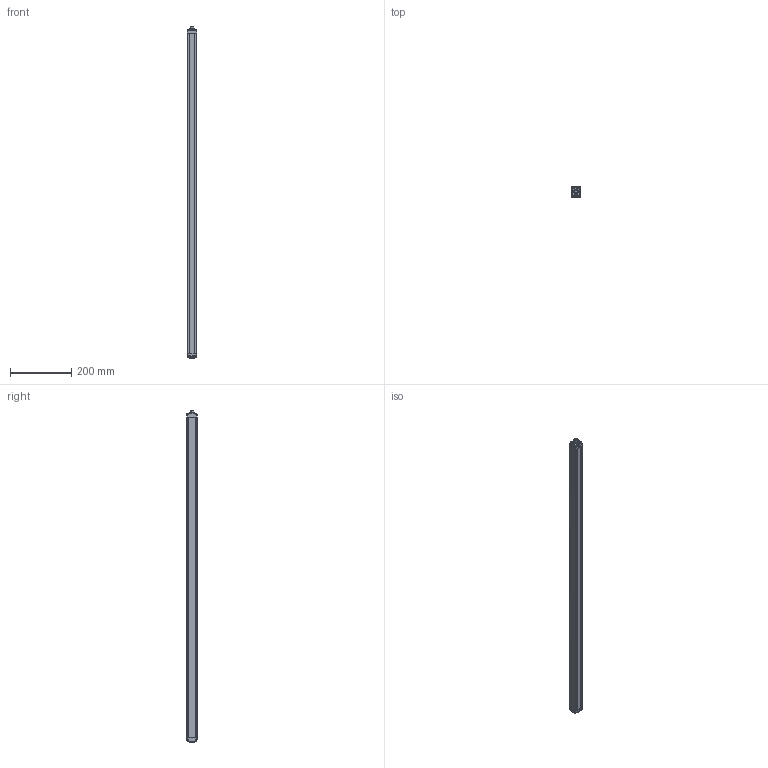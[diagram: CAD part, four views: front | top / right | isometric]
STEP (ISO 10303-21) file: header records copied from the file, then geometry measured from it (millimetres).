
FILE_DESCRIPTION(/* description */ (''),/* implementation_level */ '2;1');
FILE_NAME(/* name */ 'TYG10-102.stp',/* time_stamp */ '2024-11-07T14:25:41+08:00',/* author */ (''),/* organization */ (''),/* preprocessor_version */ 'ST-DEVELOPER v16',/* originating_system */ 'SIEMENS PLM Software NX 11.0',/* authorisation */ '');
FILE_SCHEMA (('AUTOMOTIVE_DESIGN { 1 0 10303 214 3 1 1 1 }'));
Length unit declared in the file: millimetre
Products named in the file (5): YAKELI8080; B-08238181; K-08238282; 202303318383; TYG10-_stp
Assembly tree (4 placements, depth 2):
  TYG10-_stp
    202303318383
    K-08238282
    B-08238181
    YAKELI8080
Bounding box: 31.87 x 33.07 x 1083 mm (x, y, z)
Volume: 359336.7 mm3; surface area: 376001.5 mm2
Topology: 4 solids, 4 shells, 629 faces, 1887 edges, 1256 vertices
Faces by surface type: plane 346, cylinder 203, cone 36, sphere 16, torus 16, extrusion 8, bspline 4
Entity records: 21925 total; most frequent: CARTESIAN_POINT 4523, ORIENTED_EDGE 3758, DIRECTION 3553, EDGE_CURVE 1879, VERTEX_POINT 1256, AXIS2_PLACEMENT_3D 1188, VECTOR 1177, LINE 1169
